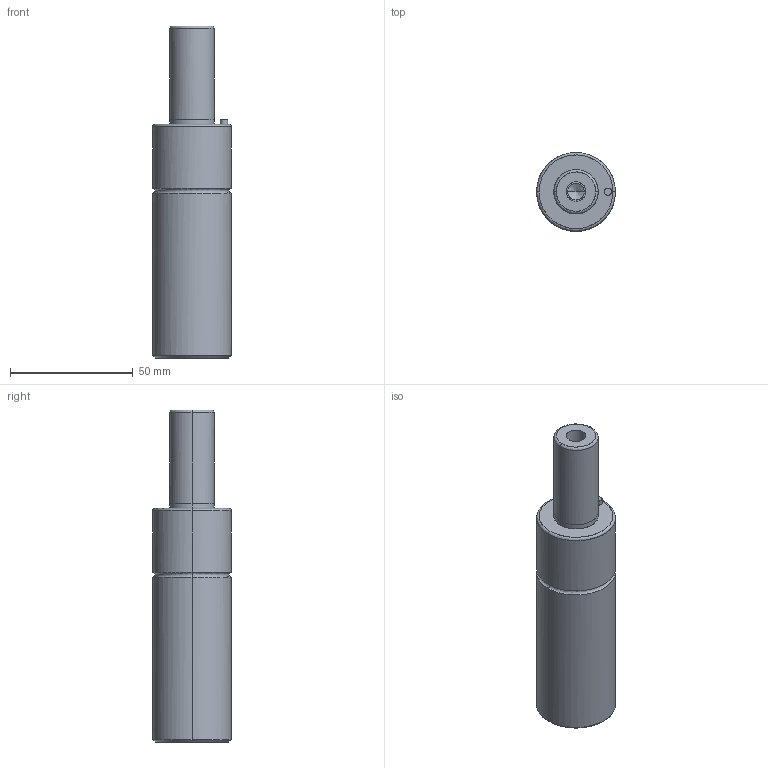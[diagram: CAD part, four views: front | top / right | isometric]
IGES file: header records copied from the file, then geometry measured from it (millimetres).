
Global section: file name: E:\UnigraphicsGraphicData\MISUMI_PRESS-PARTS\IGES\3d_gsm32-38_03927_r00.igs; native system: NX V5.0; preprocessor: UGS NX IGES V5.0; author: MISUMI; date: 20110105.160810; units: millimetre
Bounding box: 32 x 31.95 x 135 mm (x, y, z)
Surface area: 14278.4 mm2 (no closed solid volume)
Topology: 0 solids, 0 shells, 50 faces, 328 edges, 320 vertices
Faces by surface type: bspline 50
